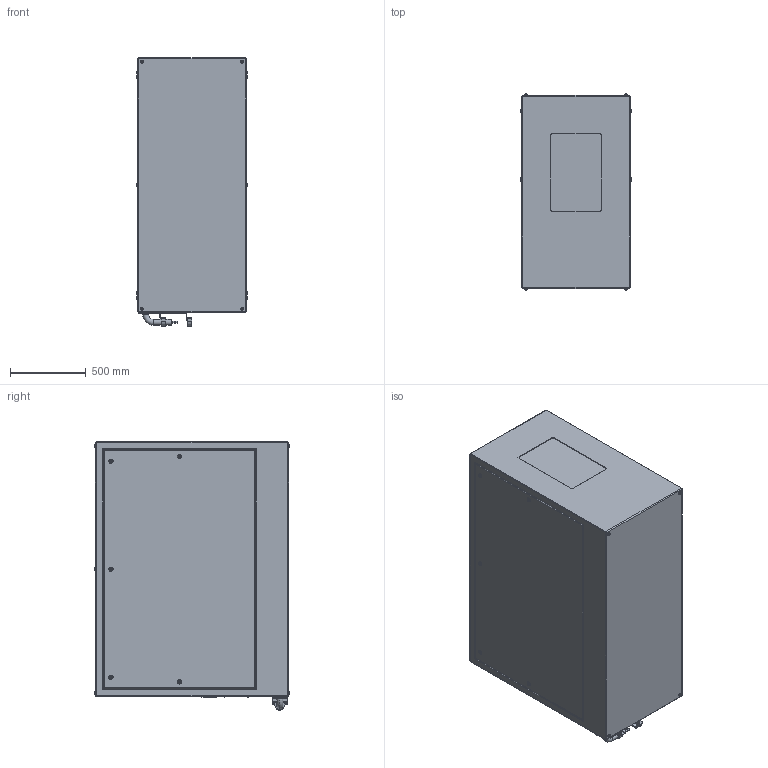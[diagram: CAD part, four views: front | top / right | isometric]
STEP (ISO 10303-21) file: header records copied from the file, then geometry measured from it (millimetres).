
FILE_DESCRIPTION (( 'STEP AP214' ), '1' );
FILE_NAME ('Oasis 59.522.P R02.STEP', '2022-09-12T23:49:26', ( '' ), ( '' ), 'SwSTEP 2.0', 'SolidWorks 2020', '' );
FILE_SCHEMA (( 'AUTOMOTIVE_DESIGN' ));
Length unit declared in the file: inch
Products named in the file (1): Oasis 59.522.P R02
Bounding box: 723.9 x 1287.27 x 1765.3 mm (x, y, z)
Volume: 1512764711.8 mm3; surface area: 9169309.2 mm2
Topology: 3 solids, 9 shells, 570 faces, 1301 edges, 826 vertices
Faces by surface type: plane 315, cylinder 193, torus 54, bspline 8
Entity records: 21891 total; most frequent: CARTESIAN_POINT 3210, DIRECTION 2843, ORIENTED_EDGE 2586, EDGE_CURVE 1293, AXIS2_PLACEMENT_3D 1019, VERTEX_POINT 826, LINE 805, VECTOR 805
